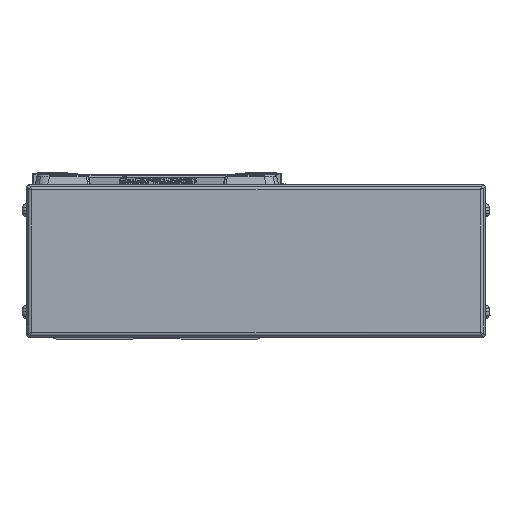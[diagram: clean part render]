
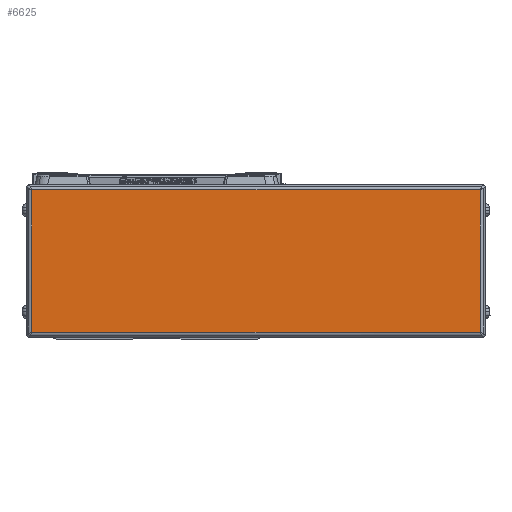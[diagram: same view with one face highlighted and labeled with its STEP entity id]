
A CAD part, left-side view. The second image highlights one B-rep face of the part: STEP entity #6625.
In plain terms, the highlighted planar face has unit normal (-1, 0, 0).
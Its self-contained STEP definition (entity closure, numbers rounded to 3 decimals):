
#6625=ADVANCED_FACE('',(#13679),#13680,.T.);
#13679=FACE_OUTER_BOUND('',#21862,.T.);
#13680=PLANE('',#21863);
#21862=EDGE_LOOP('',(#40727,#40728,#40729,#40730));
#21863=AXIS2_PLACEMENT_3D('',#40731,#40732,#40733);
#40727=ORIENTED_EDGE('',*,*,#50222,.F.);
#40728=ORIENTED_EDGE('',*,*,#52129,.F.);
#40729=ORIENTED_EDGE('',*,*,#48035,.F.);
#40730=ORIENTED_EDGE('',*,*,#49293,.F.);
#40731=CARTESIAN_POINT('',(-616.,-39.,0.));
#40732=DIRECTION('',(-1.0,0.,0.));
#40733=DIRECTION('',(0.,0.,1.0));
#48035=EDGE_CURVE('',#57752,#58788,#58789,.T.);
#49293=EDGE_CURVE('',#54513,#57752,#60677,.T.);
#50222=EDGE_CURVE('',#61987,#54513,#61989,.T.);
#52129=EDGE_CURVE('',#58788,#61987,#64412,.T.);
#54513=VERTEX_POINT('',#67275);
#57752=VERTEX_POINT('',#71628);
#58788=VERTEX_POINT('',#73042);
#58789=LINE('',#73043,#73044);
#60677=LINE('',#75797,#75798);
#61987=VERTEX_POINT('',#77630);
#61989=LINE('',#77632,#77633);
#64412=LINE('',#80981,#80982);
#67275=CARTESIAN_POINT('',(-616.,-127.2,28.));
#71628=CARTESIAN_POINT('',(-616.,-127.2,-28.));
#73042=CARTESIAN_POINT('',(-616.0,49.2,-28.));
#73043=CARTESIAN_POINT('',(-616.,-39.,-28.));
#73044=VECTOR('',#87080,10.0);
#75797=CARTESIAN_POINT('',(-616.,-127.2,0.));
#75798=VECTOR('',#88691,10.0);
#77630=CARTESIAN_POINT('',(-616.,49.2,28.));
#77632=CARTESIAN_POINT('',(-616.,-39.,28.));
#77633=VECTOR('',#89775,10.0);
#80981=CARTESIAN_POINT('',(-616.0,49.2,0.));
#80982=VECTOR('',#91989,10.0);
#87080=DIRECTION('',(0.,1.0,0.));
#88691=DIRECTION('',(0.,0.,-1.0));
#89775=DIRECTION('',(0.,-1.0,0.));
#91989=DIRECTION('',(0.,0.,1.0));
